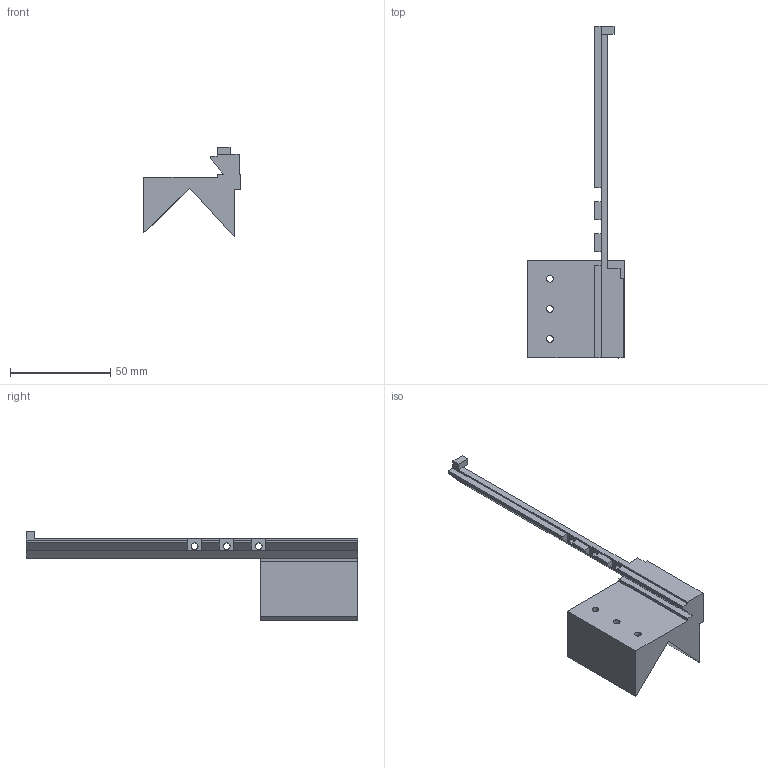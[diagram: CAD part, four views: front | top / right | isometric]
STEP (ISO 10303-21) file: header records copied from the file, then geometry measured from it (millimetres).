
FILE_DESCRIPTION(('Open CASCADE Model'),'2;1');
FILE_NAME('Open CASCADE Shape Model','2026-10-16T05:11:25',('Author'),( 'Open CASCADE'),'Open CASCADE STEP processor 7.9','Open CASCADE 7.9' ,'Unknown');
FILE_SCHEMA(('AUTOMOTIVE_DESIGN { 1 0 10303 214 1 1 1 1 }'));
Length unit declared in the file: millimetre
Products named in the file (1): Open CASCADE STEP translator 7.9 16
Bounding box: 48 x 165.6 x 44.71 mm (x, y, z)
Volume: 47861.1 mm3; surface area: 15810.4 mm2
Topology: 1 solids, 1 shells, 60 faces, 171 edges, 113 vertices
Faces by surface type: plane 54, cylinder 6
Full cylindrical faces by diameter (mm): 3.4 x6
Entity records: 4156 total; most frequent: CARTESIAN_POINT 933, DIRECTION 515, LINE 363, VECTOR 363, ORIENTED_EDGE 342, PCURVE 342, DEFINITIONAL_REPRESENTATION 342, EDGE_CURVE 171
